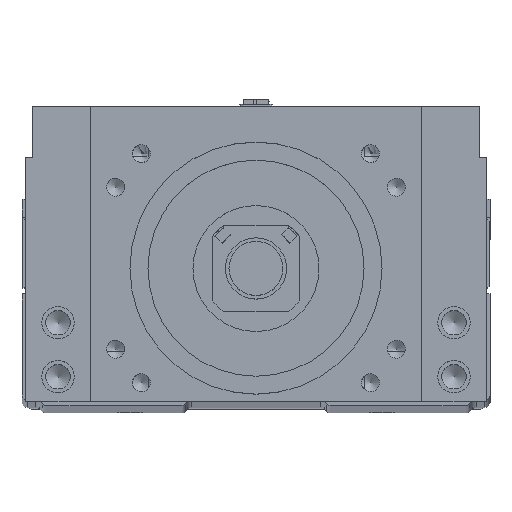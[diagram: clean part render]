
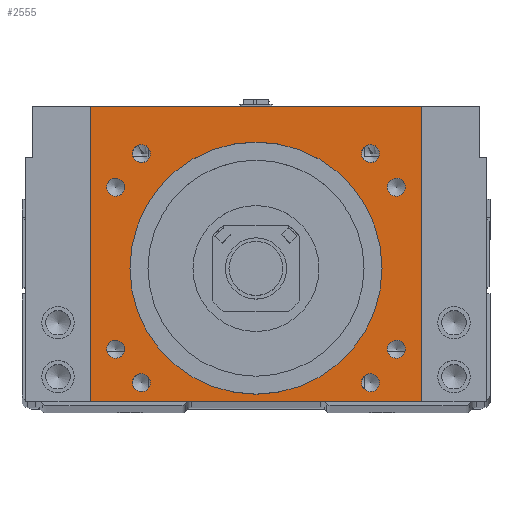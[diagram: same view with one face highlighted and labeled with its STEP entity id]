
A CAD part, top view. The second image highlights one B-rep face of the part: STEP entity #2555.
In plain terms, the highlighted planar face has unit normal (0, 0, 1).
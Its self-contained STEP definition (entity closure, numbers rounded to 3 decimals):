
#2555=ADVANCED_FACE('',(#6588,#6589,#6590,#6591,#6592,#6593,#6594,#6595,
#6596,#6597),#3454,.T.);
#3454=PLANE('',#17520);
#4266=LINE('',#24687,#5501);
#4271=LINE('',#24701,#5506);
#4276=LINE('',#24709,#5511);
#4281=LINE('',#24718,#5516);
#5501=VECTOR('',#19914,1.);
#5506=VECTOR('',#19925,1.);
#5511=VECTOR('',#19936,1.);
#5516=VECTOR('',#19943,1.);
#6588=FACE_BOUND('',#7639,.T.);
#6589=FACE_BOUND('',#7640,.T.);
#6590=FACE_BOUND('',#7641,.T.);
#6591=FACE_BOUND('',#7642,.T.);
#6592=FACE_BOUND('',#7643,.T.);
#6593=FACE_BOUND('',#7644,.T.);
#6594=FACE_BOUND('',#7645,.T.);
#6595=FACE_BOUND('',#7646,.T.);
#6596=FACE_BOUND('',#7647,.T.);
#6597=FACE_BOUND('',#7648,.T.);
#7639=EDGE_LOOP('',(#9917,#9918,#9919,#9920));
#7640=EDGE_LOOP('',(#9921));
#7641=EDGE_LOOP('',(#9922));
#7642=EDGE_LOOP('',(#9923));
#7643=EDGE_LOOP('',(#9924));
#7644=EDGE_LOOP('',(#9925));
#7645=EDGE_LOOP('',(#9926));
#7646=EDGE_LOOP('',(#9927));
#7647=EDGE_LOOP('',(#9928));
#7648=EDGE_LOOP('',(#9929));
#9917=ORIENTED_EDGE('',*,*,#15031,.T.);
#9918=ORIENTED_EDGE('',*,*,#15019,.T.);
#9919=ORIENTED_EDGE('',*,*,#15026,.T.);
#9920=ORIENTED_EDGE('',*,*,#15036,.T.);
#9921=ORIENTED_EDGE('',*,*,#15044,.F.);
#9922=ORIENTED_EDGE('',*,*,#15045,.T.);
#9923=ORIENTED_EDGE('',*,*,#15046,.T.);
#9924=ORIENTED_EDGE('',*,*,#15047,.F.);
#9925=ORIENTED_EDGE('',*,*,#15043,.F.);
#9926=ORIENTED_EDGE('',*,*,#15048,.T.);
#9927=ORIENTED_EDGE('',*,*,#15049,.T.);
#9928=ORIENTED_EDGE('',*,*,#15050,.T.);
#9929=ORIENTED_EDGE('',*,*,#15051,.T.);
#13291=VERTEX_POINT('',#24686);
#13292=VERTEX_POINT('',#24688);
#13296=VERTEX_POINT('',#24699);
#13298=VERTEX_POINT('',#24710);
#13304=VERTEX_POINT('',#24734);
#13305=VERTEX_POINT('',#24737);
#13306=VERTEX_POINT('',#24739);
#13307=VERTEX_POINT('',#24741);
#13308=VERTEX_POINT('',#24743);
#13309=VERTEX_POINT('',#24745);
#13310=VERTEX_POINT('',#24747);
#13311=VERTEX_POINT('',#24749);
#13312=VERTEX_POINT('',#24751);
#15019=EDGE_CURVE('',#13292,#13291,#4266,.T.);
#15026=EDGE_CURVE('',#13291,#13296,#4271,.T.);
#15031=EDGE_CURVE('',#13298,#13292,#4276,.T.);
#15036=EDGE_CURVE('',#13296,#13298,#4281,.T.);
#15043=EDGE_CURVE('',#13304,#13304,#16635,.T.);
#15044=EDGE_CURVE('',#13305,#13305,#16636,.T.);
#15045=EDGE_CURVE('',#13306,#13306,#16637,.T.);
#15046=EDGE_CURVE('',#13307,#13307,#16638,.T.);
#15047=EDGE_CURVE('',#13308,#13308,#16639,.T.);
#15048=EDGE_CURVE('',#13309,#13309,#16640,.T.);
#15049=EDGE_CURVE('',#13310,#13310,#16641,.T.);
#15050=EDGE_CURVE('',#13311,#13311,#16642,.T.);
#15051=EDGE_CURVE('',#13312,#13312,#16643,.T.);
#16635=CIRCLE('',#17510,35.015);
#16636=CIRCLE('',#17512,2.5);
#16637=CIRCLE('',#17513,2.5);
#16638=CIRCLE('',#17514,2.5);
#16639=CIRCLE('',#17515,2.5);
#16640=CIRCLE('',#17516,2.5);
#16641=CIRCLE('',#17517,2.5);
#16642=CIRCLE('',#17518,2.5);
#16643=CIRCLE('',#17519,2.5);
#17510=AXIS2_PLACEMENT_3D('',#24733,#19962,#19963);
#17512=AXIS2_PLACEMENT_3D('',#24736,#19966,#19967);
#17513=AXIS2_PLACEMENT_3D('',#24738,#19968,#19969);
#17514=AXIS2_PLACEMENT_3D('',#24740,#19970,#19971);
#17515=AXIS2_PLACEMENT_3D('',#24742,#19972,#19973);
#17516=AXIS2_PLACEMENT_3D('',#24744,#19974,#19975);
#17517=AXIS2_PLACEMENT_3D('',#24746,#19976,#19977);
#17518=AXIS2_PLACEMENT_3D('',#24748,#19978,#19979);
#17519=AXIS2_PLACEMENT_3D('',#24750,#19980,#19981);
#17520=AXIS2_PLACEMENT_3D('',#24752,#19982,#19983);
#19914=DIRECTION('',(-1.,0.,0.));
#19925=DIRECTION('',(0.,-1.,0.));
#19936=DIRECTION('',(0.,1.,0.));
#19943=DIRECTION('',(1.,0.,0.));
#19962=DIRECTION('',(0.,0.,1.));
#19963=DIRECTION('',(1.,0.,0.));
#19966=DIRECTION('',(0.,0.,1.));
#19967=DIRECTION('',(-1.,0.,0.));
#19968=DIRECTION('',(0.,0.,-1.));
#19969=DIRECTION('',(1.,0.,0.));
#19970=DIRECTION('',(0.,0.,-1.));
#19971=DIRECTION('',(1.,0.,0.));
#19972=DIRECTION('',(0.,0.,1.));
#19973=DIRECTION('',(-1.,0.,0.));
#19974=DIRECTION('',(0.,0.,-1.));
#19975=DIRECTION('',(1.,0.,0.));
#19976=DIRECTION('',(0.,0.,-1.));
#19977=DIRECTION('',(1.,0.,0.));
#19978=DIRECTION('',(0.,0.,-1.));
#19979=DIRECTION('',(1.,0.,0.));
#19980=DIRECTION('',(0.,0.,-1.));
#19981=DIRECTION('',(1.,0.,0.));
#19982=DIRECTION('',(0.,0.,1.));
#19983=DIRECTION('',(-1.,0.,0.));
#24686=CARTESIAN_POINT('',(-46.,83.,100.));
#24687=CARTESIAN_POINT('',(0.,83.,100.));
#24688=CARTESIAN_POINT('',(46.,83.,100.));
#24699=CARTESIAN_POINT('',(-46.,1.,100.));
#24701=CARTESIAN_POINT('',(-46.,38.,100.));
#24709=CARTESIAN_POINT('',(46.,38.,100.));
#24710=CARTESIAN_POINT('',(46.,1.,100.));
#24718=CARTESIAN_POINT('',(0.,1.,100.));
#24733=CARTESIAN_POINT('',(0.,38.,100.));
#24734=CARTESIAN_POINT('',(35.015,38.,100.));
#24736=CARTESIAN_POINT('',(-38.971,15.5,100.));
#24737=CARTESIAN_POINT('',(-41.471,15.5,100.));
#24738=CARTESIAN_POINT('',(38.971,60.5,100.));
#24739=CARTESIAN_POINT('',(41.471,60.5,100.));
#24740=CARTESIAN_POINT('',(38.971,15.5,100.));
#24741=CARTESIAN_POINT('',(41.471,15.5,100.));
#24742=CARTESIAN_POINT('',(-38.971,60.5,100.));
#24743=CARTESIAN_POINT('',(-41.471,60.5,100.));
#24744=CARTESIAN_POINT('',(-31.82,69.82,100.));
#24745=CARTESIAN_POINT('',(-29.32,69.82,100.));
#24746=CARTESIAN_POINT('',(-31.82,6.18,100.));
#24747=CARTESIAN_POINT('',(-29.32,6.18,100.));
#24748=CARTESIAN_POINT('',(31.82,6.18,100.));
#24749=CARTESIAN_POINT('',(34.32,6.18,100.));
#24750=CARTESIAN_POINT('',(31.82,69.82,100.));
#24751=CARTESIAN_POINT('',(34.32,69.82,100.));
#24752=CARTESIAN_POINT('',(0.,38.,100.));
